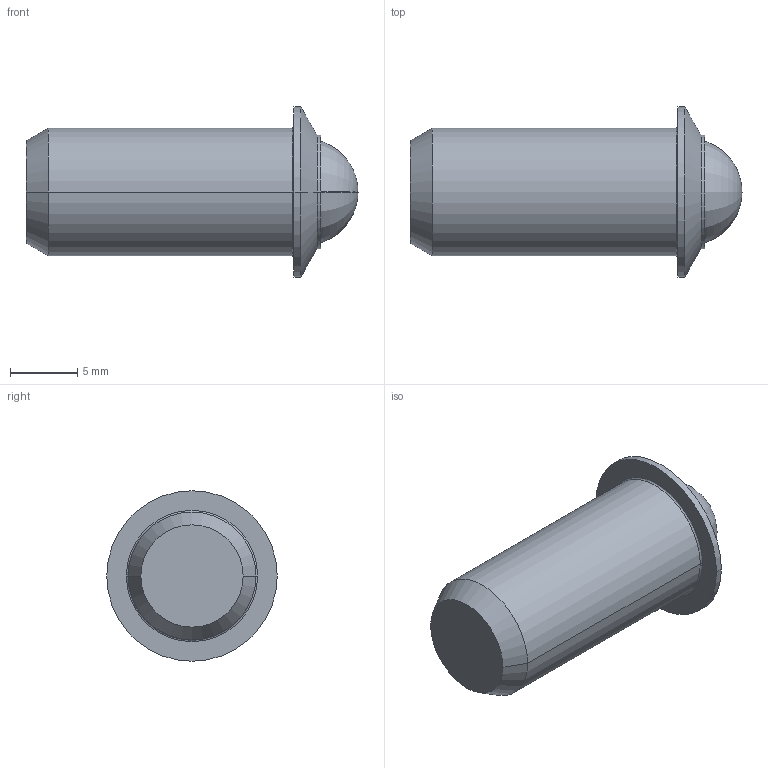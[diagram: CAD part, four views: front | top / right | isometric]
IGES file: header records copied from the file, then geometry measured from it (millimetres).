
Start section:  PTC IGES file: pfb58-part-3d.igs
Global section: file name: pfb58-part-3d.igs; native system: Pro/ENGINEER by Parametric Technology Corporation; preprocessor: 2002350; author: chant; organization: Unknown; date: 070201.164536; units: inch
Bounding box: 24.74 x 12.7 x 12.7 mm (x, y, z)
Surface area: 1439.9 mm2 (no closed solid volume)
Topology: 0 solids, 0 shells, 20 faces, 101 edges, 111 vertices
Faces by surface type: revolution 16, bspline 4
